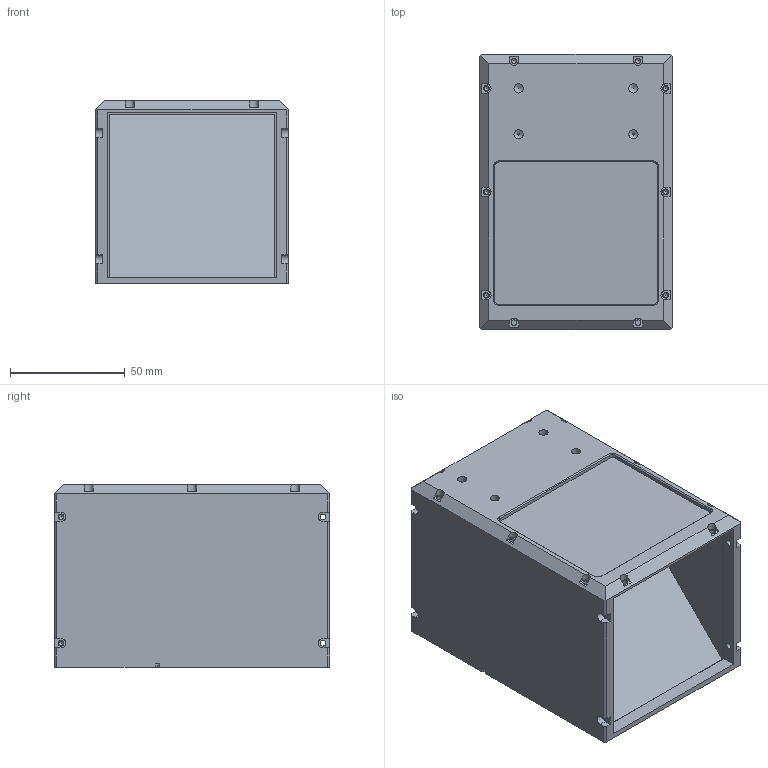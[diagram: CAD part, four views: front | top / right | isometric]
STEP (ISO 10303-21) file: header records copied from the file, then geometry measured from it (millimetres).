
FILE_DESCRIPTION((''),'2;1');
FILE_NAME('D:\上海创波-20181114\2-三维图纸\1-常用光源\WLFV系列\WLFVB-70-.stp','2020-02-05T15:00:19',('Administrator'),(''),'Autodesk Inventor 2010','Autodesk Inventor 2010','');
FILE_SCHEMA(('AUTOMOTIVE_DESIGN { 1 0 10303 214 1 1 1 1 }'));
Length unit declared in the file: millimetre
Products named in the file (1): 零件12
Bounding box: 84 x 120 x 79.5 mm (x, y, z)
Volume: 185467.6 mm3; surface area: 104804.2 mm2
Topology: 1 solids, 1 shells, 324 faces, 878 edges, 578 vertices
Faces by surface type: plane 162, bspline 138, cylinder 16, cone 8
Full cylindrical faces by diameter (mm): 2 x2, 2.5 x2
Entity records: 10433 total; most frequent: CARTESIAN_POINT 3405, ORIENTED_EDGE 1412, DIRECTION 1288, EDGE_CURVE 706, VERTEX_POINT 504, VECTOR 498, LINE 498, EDGE_LOOP 462
